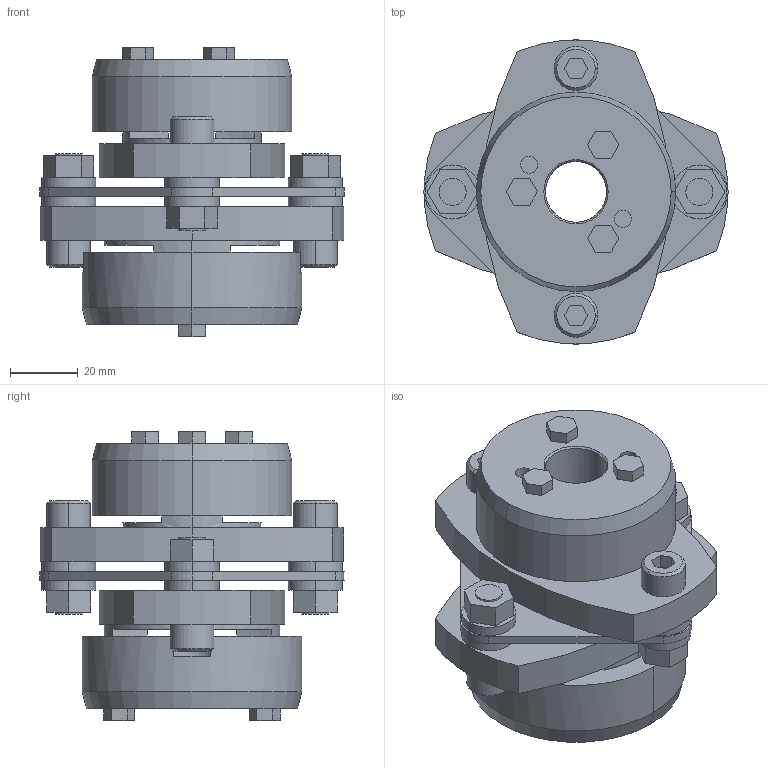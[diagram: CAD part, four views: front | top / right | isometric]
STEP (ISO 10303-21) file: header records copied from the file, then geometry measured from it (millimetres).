
FILE_DESCRIPTION((''),'2;1');
FILE_NAME('LCS-90T7-18×30.stp','2015-11-01T20:17:09',(''),(''),'AutoCAD STEP 2000i','AutoCAD 2000i',', , ');
FILE_SCHEMA(('CONFIG_CONTROL_DESIGN'));
Length unit declared in the file: millimetre
Products named in the file (9): LCS-90T7-19×30; 忣兜1; LC90T7-T030; LC90T7-T025; LC90T7-T019-1; LC90T7-T019; LC90-B019-1; LC90-B019; LCS90-ITA
Assembly tree (8 placements, depth 2):
  LCS-90T7-19×30
    忣兜1
    LC90T7-T030
    LC90T7-T025
    LC90T7-T019-1
    LC90T7-T019
    LC90-B019-1
    LC90-B019
    LCS90-ITA
Bounding box: 90 x 89.94 x 85.5 mm (x, y, z)
Volume: 209016.5 mm3; surface area: 53324.3 mm2
Topology: 1 solids, 1 shells, 229 faces, 562 edges, 368 vertices
Faces by surface type: plane 127, cylinder 82, cone 20
Entity records: 7023 total; most frequent: DIRECTION 1242, CARTESIAN_POINT 1168, ORIENTED_EDGE 1124, EDGE_CURVE 562, AXIS2_PLACEMENT_3D 442, VERTEX_POINT 368, VECTOR 358, LINE 358
